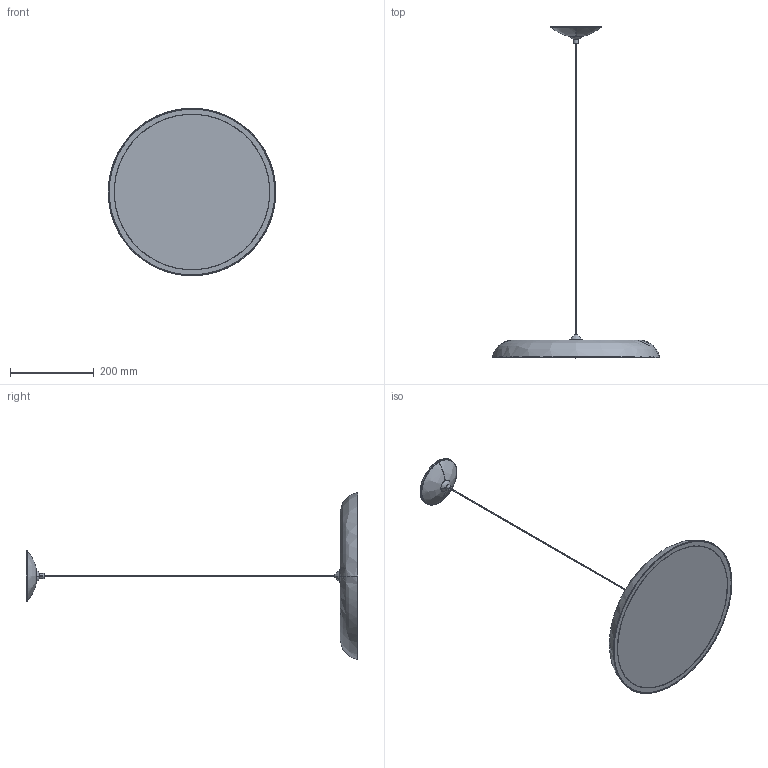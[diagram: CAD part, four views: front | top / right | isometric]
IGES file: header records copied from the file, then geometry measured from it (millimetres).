
Start section: SolidWorks IGES file using analytic representation for surfaces
Global section: file name: F:\燠隴矨\3D\2026-3\Macaron Pendant Light-D40cm.IGS,15; native system: HSolidWorks 2022; preprocessor: SolidWorks 2022; author: MyPC; date: 260330.112735; units: millimetre
Bounding box: 400.12 x 792 x 400.12 mm (x, y, z)
Surface area: 587471.6 mm2 (no closed solid volume)
Topology: 0 solids, 0 shells, 45 faces, 1344 edges, 1343 vertices
Faces by surface type: bspline 29, revolution 16
